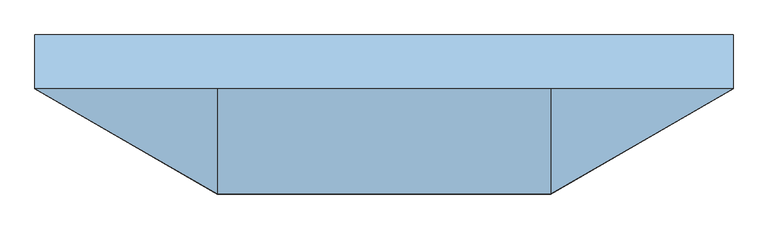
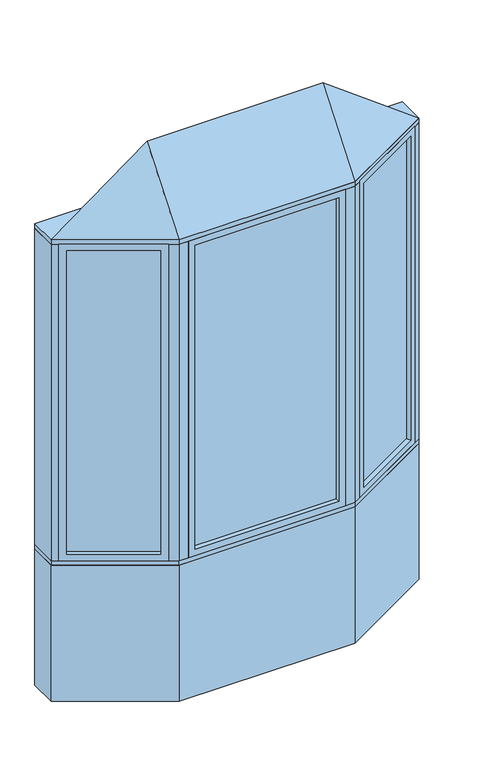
"""IFC4 building model written with IfcOpenShell, lengths in millimetres: window geometry, Pollard_Windows_Tudor Casement Bows and Bays : AML-BAY 30 AFR0518-10-500."""

from ifc_helpers import new_model, si_unit, frame, origin, origin_with_axes, place, context, project, spatial, polyline, outline, extrude, faceted_brep, source, transform, mapped, element, save


def window_040baff0(model_context):
    return source(origin(), model_context, "Body", "SolidModel", [
        extrude(outline(polyline([(926.612102, -82.0482469), (523.7320119, -314.6511754), (521.1920119, -310.2517664), (924.072102, -77.6488379), (926.612102, -82.0482469)])), frame((0.0, 0.0, 823.1628), z_axis=(0.0, 0.0, 1.0), x_axis=(1.0, 0.0, 0.0)), (0.0, 0.0, 1.0), 1753.6704),
        faceted_brep([(915.6135794, -88.3982469, 835.8628), (928.3135794, -110.3952922, 835.8628), (928.3135794, -110.3952922, 2564.1332), (915.6135794, -88.3982469, 2564.1332), (924.072102, -77.6488379, 823.1628), (926.612102, -82.0482469, 823.1628), (926.612102, -82.0482469, 2576.8332), (924.072102, -77.6488379, 2576.8332), (900.3735794, -62.0017926, 835.8628), (913.0735794, -83.9988379, 835.8628), (913.0735794, -83.9988379, 2564.1332), (900.3735794, -62.0017926, 2564.1332), (959.3734073, -92.4628922, 799.998), (931.4334073, -44.0693926, 799.998), (931.4334073, -44.0693926, 2599.998), (959.3734073, -92.4628922, 2599.998), (547.4305346, -330.2982207, 2564.1332), (534.7305346, -308.3011754, 2564.1332), (523.7320119, -314.6511754, 2576.8332), (521.1920119, -310.2517664, 2576.8332), (532.1905346, -303.9017664, 2564.1332), (519.4905346, -281.9047211, 2564.1332), (488.4307067, -299.8371211, 2599.998), (516.3707067, -348.2306207, 2599.998), (547.4305346, -330.2982207, 835.8628), (534.7305346, -308.3011754, 835.8628), (523.7320119, -314.6511754, 823.1628), (521.1920119, -310.2517664, 823.1628), (532.1905346, -303.9017664, 835.8628), (519.4905346, -281.9047211, 835.8628), (488.4307067, -299.8371211, 799.998), (516.3707067, -348.2306207, 799.998)], [[[0, 1, 2, 3]], [[4, 5, 6, 7]], [[8, 9, 10, 11]], [[12, 13, 14, 15]], [[3, 2, 16, 17]], [[7, 6, 18, 19]], [[11, 10, 20, 21]], [[15, 14, 22, 23]], [[17, 16, 24, 25]], [[19, 18, 26, 27]], [[21, 20, 28, 29]], [[23, 22, 30, 31]], [[25, 24, 1, 0]], [[5, 26, 18, 6], [3, 17, 25, 0]], [[27, 26, 5, 4]], [[7, 19, 27, 4], [9, 28, 20, 10]], [[29, 28, 9, 8]], [[13, 30, 22, 14], [11, 21, 29, 8]], [[31, 30, 13, 12]], [[15, 23, 31, 12], [1, 24, 16, 2]]]),
        extrude(outline(polyline([(-523.7320119, -314.6511754), (-926.612102, -82.0482469), (-924.072102, -77.6488379), (-521.1920119, -310.2517664), (-523.7320119, -314.6511754)])), frame((0.0, 0.0, 823.1628), z_axis=(0.0, 0.0, 1.0), x_axis=(1.0, 0.0, 0.0)), (0.0, 0.0, 1.0), 1753.6704),
        faceted_brep([(-532.1905346, -303.9017664, 2564.1332), (-519.4905346, -281.9047211, 2564.1332), (-519.4905346, -281.9047211, 835.8628), (-532.1905346, -303.9017664, 835.8628), (-523.7320119, -314.6511754, 2576.8332), (-521.1920119, -310.2517664, 2576.8332), (-521.1920119, -310.2517664, 823.1628), (-523.7320119, -314.6511754, 823.1628), (-547.4305346, -330.2982207, 2564.1332), (-534.7305346, -308.3011754, 2564.1332), (-534.7305346, -308.3011754, 835.8628), (-547.4305346, -330.2982207, 835.8628), (-488.4307067, -299.8371211, 2599.998), (-516.3707067, -348.2306207, 2599.998), (-516.3707067, -348.2306207, 799.998), (-488.4307067, -299.8371211, 799.998), (-900.3735794, -62.0017926, 835.8628), (-913.0735794, -83.9988379, 835.8628), (-924.072102, -77.6488379, 823.1628), (-926.612102, -82.0482469, 823.1628), (-915.6135794, -88.3982469, 835.8628), (-928.3135794, -110.3952922, 835.8628), (-959.3734073, -92.4628922, 799.998), (-931.4334073, -44.0693926, 799.998), (-900.3735794, -62.0017926, 2564.1332), (-913.0735794, -83.9988379, 2564.1332), (-924.072102, -77.6488379, 2576.8332), (-926.612102, -82.0482469, 2576.8332), (-915.6135794, -88.3982469, 2564.1332), (-928.3135794, -110.3952922, 2564.1332), (-959.3734073, -92.4628922, 2599.998), (-931.4334073, -44.0693926, 2599.998)], [[[0, 1, 2, 3]], [[4, 5, 6, 7]], [[8, 9, 10, 11]], [[12, 13, 14, 15]], [[3, 2, 16, 17]], [[7, 6, 18, 19]], [[11, 10, 20, 21]], [[15, 14, 22, 23]], [[17, 16, 24, 25]], [[19, 18, 26, 27]], [[21, 20, 28, 29]], [[23, 22, 30, 31]], [[15, 23, 31, 12], [1, 24, 16, 2]], [[25, 24, 1, 0]], [[5, 26, 18, 6], [3, 17, 25, 0]], [[27, 26, 5, 4]], [[7, 19, 27, 4], [9, 28, 20, 10]], [[29, 28, 9, 8]], [[13, 30, 22, 14], [11, 21, 29, 8]], [[31, 30, 13, 12]]]),
        extrude(outline(polyline([(399.9046365, -347.8306207), (-399.9046365, -347.8306207), (-399.9046365, -342.7506207), (399.9046365, -342.7506207), (399.9046365, -347.8306207)])), frame((0.0, 0.0, 823.1628), z_axis=(0.0, 0.0, 1.0), x_axis=(1.0, 0.0, 0.0)), (0.0, 0.0, 1.0), 1753.6704),
        faceted_brep([(387.2046365, -347.8306207, 835.8628), (387.2046365, -373.2306207, 835.8628), (387.2046365, -373.2306207, 2564.1332), (387.2046365, -347.8306207, 2564.1332), (399.9046365, -342.7506207, 823.1628), (399.9046365, -347.8306207, 823.1628), (399.9046365, -347.8306207, 2576.8332), (399.9046365, -342.7506207, 2576.8332), (387.2046365, -317.3506207, 835.8628), (387.2046365, -342.7506207, 835.8628), (387.2046365, -342.7506207, 2564.1332), (387.2046365, -317.3506207, 2564.1332), (423.0694365, -373.2306207, 799.998), (423.0694365, -317.3506207, 799.998), (423.0694365, -317.3506207, 2599.998), (423.0694365, -373.2306207, 2599.998), (-387.2046365, -373.2306207, 2564.1332), (-387.2046365, -347.8306207, 2564.1332), (-399.9046365, -347.8306207, 2576.8332), (-399.9046365, -342.7506207, 2576.8332), (-387.2046365, -342.7506207, 2564.1332), (-387.2046365, -317.3506207, 2564.1332), (-423.0694365, -317.3506207, 2599.998), (-423.0694365, -373.2306207, 2599.998), (-387.2046365, -373.2306207, 835.8628), (-387.2046365, -347.8306207, 835.8628), (-399.9046365, -347.8306207, 823.1628), (-399.9046365, -342.7506207, 823.1628), (-387.2046365, -342.7506207, 835.8628), (-387.2046365, -317.3506207, 835.8628), (-423.0694365, -317.3506207, 799.998), (-423.0694365, -373.2306207, 799.998)], [[[0, 1, 2, 3]], [[4, 5, 6, 7]], [[8, 9, 10, 11]], [[12, 13, 14, 15]], [[3, 2, 16, 17]], [[7, 6, 18, 19]], [[11, 10, 20, 21]], [[15, 14, 22, 23]], [[17, 16, 24, 25]], [[19, 18, 26, 27]], [[21, 20, 28, 29]], [[23, 22, 30, 31]], [[15, 23, 31, 12], [1, 24, 16, 2]], [[25, 24, 1, 0]], [[5, 26, 18, 6], [3, 17, 25, 0]], [[27, 26, 5, 4]], [[7, 19, 27, 4], [9, 28, 20, 10]], [[29, 28, 9, 8]], [[13, 30, 22, 14], [11, 21, 29, 8]], [[31, 30, 13, 12]]]),
        faceted_brep([(990.0, -74.7806207, 2625.398), (473.0694365, -373.2306207, 2625.398), (-473.0694365, -373.2306207, 2625.398), (-990.0, -74.7806207, 2625.398), (-473.0694365, -74.7806207, 3006.398), (473.0694365, -74.7806207, 3006.398)], [[[0, 1, 2, 3]], [[3, 2, 4]], [[2, 1, 5, 4]], [[1, 0, 5]], [[0, 3, 4, 5]]]),
        extrude(outline(polyline([(-990.0, 77.6193793), (990.0, 77.6193793), (990.0, -74.7806207), (473.0694365, -373.2306207), (-473.0694365, -373.2306207), (-990.0, -74.7806207), (-990.0, 77.6193793)])), frame((0.0, 0.0, 2599.998), z_axis=(0.0, 0.0, 1.0), x_axis=(1.0, 0.0, 0.0)), (0.0, 0.0, 1.0), 25.4),
        extrude(outline(polyline([(-990.0, -74.7806207), (-990.0, 77.6193793), (-949.1645431, 77.6193793), (-949.1645431, -74.7806207), (-959.3734073, -92.4628922), (-990.0, -74.7806207)])), frame((0.0, 0.0, 799.998), z_axis=(0.0, 0.0, 1.0), x_axis=(1.0, 0.0, 0.0)), (0.0, 0.0, 1.0), 1800.0),
        extrude(outline(polyline([(990.0, 77.6193793), (990.0, -74.7806207), (959.3734073, -92.4628922), (949.1645431, -74.7806207), (949.1645431, 77.6193793), (990.0, 77.6193793)])), frame((0.0, 0.0, 799.998), z_axis=(0.0, 0.0, 1.0), x_axis=(1.0, 0.0, 0.0)), (0.0, 0.0, 1.0), 1800.0),
        extrude(outline(polyline([(473.0694365, -373.2306207), (423.0694365, -373.2306207), (423.0694365, -323.2306207), (459.6719769, -323.2306207), (491.3707067, -304.9293505), (516.3707067, -348.2306207), (473.0694365, -373.2306207)])), frame((0.0, 0.0, 799.998), z_axis=(0.0, 0.0, 1.0), x_axis=(1.0, 0.0, 0.0)), (0.0, 0.0, 1.0), 1800.0),
        extrude(outline(polyline([(-473.0694365, -373.2306207), (-516.3707067, -348.2306207), (-491.3707067, -304.9293505), (-459.6719769, -323.2306207), (-423.0694365, -323.2306207), (-423.0694365, -373.2306207), (-473.0694365, -373.2306207)])), frame((0.0, 0.0, 799.998), z_axis=(0.0, 0.0, 1.0), x_axis=(1.0, 0.0, 0.0)), (0.0, 0.0, 1.0), 1800.0),
        extrude(outline(polyline([(-473.0694365, -373.2306207), (-990.0, -74.7806207), (-990.0, 77.6193793), (-949.1645431, 77.6193793), (-432.2339796, -220.8306207), (432.2339796, -220.8306207), (949.1645431, 77.6193793), (990.0, 77.6193793), (990.0, -74.7806207), (473.0694365, -373.2306207), (-473.0694365, -373.2306207)])), frame((0.0, 0.0, 774.598), z_axis=(0.0, 0.0, 1.0), x_axis=(1.0, 0.0, 0.0)), (0.0, 0.0, 1.0), 25.4),
        extrude(outline(polyline([(-990.0, -74.7806207), (-990.0, 77.6193793), (-949.1645431, 77.6193793), (-432.2339796, -220.8306207), (432.2339796, -220.8306207), (949.1645431, 77.6193793), (990.0, 77.6193793), (990.0, -74.7806207), (473.0694365, -373.2306207), (-473.0694365, -373.2306207), (-990.0, -74.7806207)])), origin_with_axes(), (0.0, 0.0, 1.0), 774.598),
    ])


if __name__ == "__main__":
    model = new_model("IFC4")
    model_context = context("Model", 3, world=origin())
    ifc_project = project(units=[si_unit("LENGTHUNIT", "METRE", prefix="MILLI")], contexts=[model_context])
    site = spatial("IfcSite", under=ifc_project)
    building = spatial("IfcBuilding", under=site)
    placement = place(None, origin())
    window_shape = window_040baff0(model_context)
    element("IfcWindow", 1, ObjectType="Pollard_Windows_Tudor Casement Bows and Bays : AML-BAY 30 AFR0518-10-500", at=placement, inside=building, context=model_context, shape_type="MappedRepresentation", body=[
        mapped(window_shape, transform((0.0, 0.0, 0.0), x_axis=(1.0, 0.0, 0.0), y_axis=(0.0, 1.0, 0.0), z_axis=(0.0, 0.0, 1.0))),
    ])
    save(model, "model.ifc")
